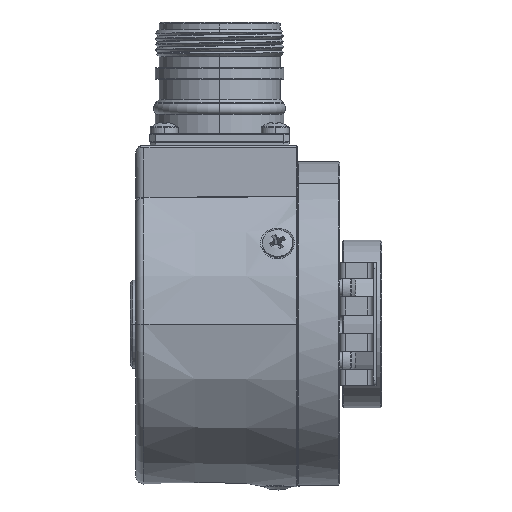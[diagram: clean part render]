
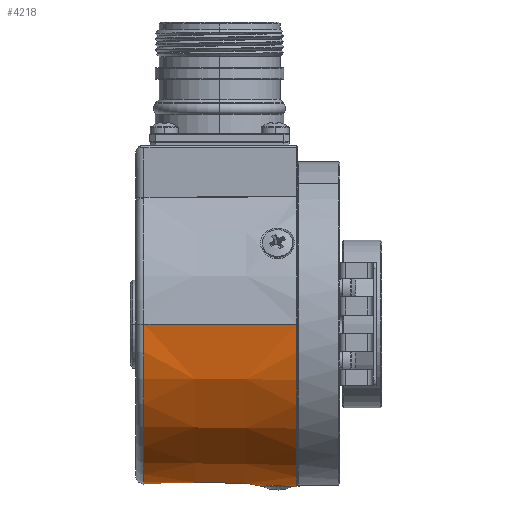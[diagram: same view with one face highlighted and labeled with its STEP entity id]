
A CAD part, left-side view. The second image highlights one B-rep face of the part: STEP entity #4218.
In plain terms, the highlighted conical face has half-angle 1 degrees and reference radius 28.565 mm.
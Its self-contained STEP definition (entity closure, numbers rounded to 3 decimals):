
#1450 = CARTESIAN_POINT ( 'NONE',  ( 1.053, 8.296, -29.041 ) ) ;
#1645 = CARTESIAN_POINT ( 'NONE',  ( -2.536, 12.995, -28.864 ) ) ;
#1795 = CARTESIAN_POINT ( 'NONE',  ( -0.387, 8.168, -29.058 ) ) ;
#2131 = CARTESIAN_POINT ( 'NONE',  ( 2.999, 12.168, -28.834 ) ) ;
#2476 = CARTESIAN_POINT ( 'NONE',  ( 1.913, 13.591, -28.902 ) ) ;
#3854 = B_SPLINE_CURVE_WITH_KNOTS ( 'NONE', 3,
 ( #20827, #36800, #63469, #15991, #37159, #1795, #38811, #7028, #28763, #1450, #55098, #60600, #7695, #22561, #43733, #54442, #33634, #12519, #12874, #49941, #59932, #28108, #2131, #8364, #33958, #54785, #55450, #64823, #2476, #38480 ),
 .UNSPECIFIED., .F., .F.,
 ( 4, 2, 2, 2, 2, 2, 2, 2, 2, 2, 2, 2, 2, 2, 4 ),
 ( 0.998, 1.029, 1.06, 1.092, 1.123, 1.185, 1.217, 1.248, 1.279, 1.31, 1.373, 1.404, 1.435, 1.467, 1.498 ),
 .UNSPECIFIED. ) ;
#4218 = ADVANCED_FACE ( 'NONE', ( #6113, #15771 ), #23409, .T. ) ;
#5006 = CARTESIAN_POINT ( 'NONE',  ( 28.565, 36.5, 0. ) ) ;
#6113 = FACE_BOUND ( 'NONE', #62276, .T. ) ;
#6517 = CARTESIAN_POINT ( 'NONE',  ( -1.613, 13.782, -28.917 ) ) ;
#7028 = CARTESIAN_POINT ( 'NONE',  ( 0.233, 8.153, -29.06 ) ) ;
#7622 = EDGE_CURVE ( 'NONE', #21033, #38652, #33495, .T. ) ;
#7695 = CARTESIAN_POINT ( 'NONE',  ( 2.113, 8.913, -28.97 ) ) ;
#8364 = CARTESIAN_POINT ( 'NONE',  ( 2.837, 12.533, -28.844 ) ) ;
#8549 = CARTESIAN_POINT ( 'NONE',  ( -1.737, 8.646, -28.999 ) ) ;
#9250 = VERTEX_POINT ( 'NONE', #64464 ) ;
#9597 = VECTOR ( 'NONE', #14626, 1000. ) ;
#10675 = CARTESIAN_POINT ( 'NONE',  ( -3.151, 11.541, -28.829 ) ) ;
#10927 = CARTESIAN_POINT ( 'NONE',  ( 0., 36.5, 0. ) ) ;
#11344 = CARTESIAN_POINT ( 'NONE',  ( 0.183, 14.216, -28.956 ) ) ;
#11352 = VERTEX_POINT ( 'NONE', #67555 ) ;
#11678 = CARTESIAN_POINT ( 'NONE',  ( -0.851, 14.091, -28.944 ) ) ;
#12519 = CARTESIAN_POINT ( 'NONE',  ( 3.014, 10.223, -28.867 ) ) ;
#12874 = CARTESIAN_POINT ( 'NONE',  ( 3.073, 10.411, -28.857 ) ) ;
#14010 = CARTESIAN_POINT ( 'NONE',  ( 0., 7.697, 0. ) ) ;
#14626 = DIRECTION ( 'NONE',  ( -0.017, -1., 0. ) ) ;
#15358 = LINE ( 'NONE', #5006, #30199 ) ;
#15771 = FACE_OUTER_BOUND ( 'NONE', #67855, .T. ) ;
#15991 = CARTESIAN_POINT ( 'NONE',  ( -0.997, 8.298, -29.041 ) ) ;
#16105 = AXIS2_PLACEMENT_3D ( 'NONE', #32004, #42777, #58333 ) ;
#20144 = CARTESIAN_POINT ( 'NONE',  ( -29.068, 7.697, 0. ) ) ;
#20827 = CARTESIAN_POINT ( 'NONE',  ( -1.737, 8.646, -28.999 ) ) ;
#21033 = VERTEX_POINT ( 'NONE', #56606 ) ;
#22399 = CARTESIAN_POINT ( 'NONE',  ( 1.389, 13.918, -28.928 ) ) ;
#22561 = CARTESIAN_POINT ( 'NONE',  ( 2.404, 9.196, -28.942 ) ) ;
#22746 = CARTESIAN_POINT ( 'NONE',  ( -2.879, 12.497, -28.842 ) ) ;
#23409 = CONICAL_SURFACE ( 'NONE', #63268, 28.565, 0.017 ) ;
#24280 = ORIENTED_EDGE ( 'NONE', *, *, #62557, .T. ) ;
#24572 = VERTEX_POINT ( 'NONE', #29980 ) ;
#28108 = CARTESIAN_POINT ( 'NONE',  ( 3.06, 11.981, -28.831 ) ) ;
#28618 = CARTESIAN_POINT ( 'NONE',  ( -2.997, 10.173, -28.87 ) ) ;
#28763 = CARTESIAN_POINT ( 'NONE',  ( 0.441, 8.174, -29.057 ) ) ;
#28935 = DIRECTION ( 'NONE',  ( 1., 0., 0. ) ) ;
#28969 = CARTESIAN_POINT ( 'NONE',  ( -2.085, 8.864, -28.975 ) ) ;
#29279 = DIRECTION ( 'NONE',  ( 0., 1., 0. ) ) ;
#29980 = CARTESIAN_POINT ( 'NONE',  ( 29.068, 7.697, 0. ) ) ;
#30199 = VECTOR ( 'NONE', #68058, 1000. ) ;
#31120 = EDGE_CURVE ( 'NONE', #38652, #21033, #3854, .T. ) ;
#31766 = CARTESIAN_POINT ( 'NONE',  ( -3.17, 11.343, -28.83 ) ) ;
#32004 = CARTESIAN_POINT ( 'NONE',  ( 0., 35.026, 0. ) ) ;
#32789 = CARTESIAN_POINT ( 'NONE',  ( -1.048, 14.032, -28.939 ) ) ;
#33495 = B_SPLINE_CURVE_WITH_KNOTS ( 'NONE', 3,
 ( #48087, #22399, #37346, #11344, #38013, #11678, #32789, #53933, #6517, #38342, #48753, #59438, #1645, #22746, #58119, #10675, #31766, #34836, #55651, #59780, #28618, #39684, #65350, #34490, #28969, #8549 ),
 .UNSPECIFIED., .F., .F.,
 ( 4, 2, 2, 2, 2, 2, 2, 2, 2, 2, 2, 2, 4 ),
 ( 0.498, 0.56, 0.623, 0.654, 0.685, 0.717, 0.748, 0.81, 0.842, 0.873, 0.904, 0.935, 0.998 ),
 .UNSPECIFIED. ) ;
#33597 = ORIENTED_EDGE ( 'NONE', *, *, #52830, .F. ) ;
#33634 = CARTESIAN_POINT ( 'NONE',  ( 2.858, 9.855, -28.889 ) ) ;
#33756 = DIRECTION ( 'NONE',  ( 0., -1., 0. ) ) ;
#33958 = CARTESIAN_POINT ( 'NONE',  ( 2.737, 12.708, -28.851 ) ) ;
#34490 = CARTESIAN_POINT ( 'NONE',  ( -2.385, 9.146, -28.945 ) ) ;
#34836 = CARTESIAN_POINT ( 'NONE',  ( -3.166, 10.946, -28.838 ) ) ;
#34947 = AXIS2_PLACEMENT_3D ( 'NONE', #14010, #29279, #28935 ) ;
#36800 = CARTESIAN_POINT ( 'NONE',  ( -1.563, 8.538, -29.012 ) ) ;
#37159 = CARTESIAN_POINT ( 'NONE',  ( -0.796, 8.242, -29.048 ) ) ;
#37346 = CARTESIAN_POINT ( 'NONE',  ( 0.998, 14.069, -28.942 ) ) ;
#38013 = CARTESIAN_POINT ( 'NONE',  ( -0.24, 14.213, -28.956 ) ) ;
#38220 = EDGE_CURVE ( 'NONE', #24572, #56516, #46021, .T. ) ;
#38342 = CARTESIAN_POINT ( 'NONE',  ( -1.957, 13.558, -28.9 ) ) ;
#38480 = CARTESIAN_POINT ( 'NONE',  ( 1.738, 13.7, -28.911 ) ) ;
#38652 = VERTEX_POINT ( 'NONE', #48545 ) ;
#38811 = CARTESIAN_POINT ( 'NONE',  ( -0.181, 8.15, -29.06 ) ) ;
#39684 = CARTESIAN_POINT ( 'NONE',  ( -2.834, 9.808, -28.892 ) ) ;
#40841 = ORIENTED_EDGE ( 'NONE', *, *, #31120, .T. ) ;
#42777 = DIRECTION ( 'NONE',  ( 0., -1., 0. ) ) ;
#43733 = CARTESIAN_POINT ( 'NONE',  ( 2.534, 9.349, -28.928 ) ) ;
#44561 = EDGE_CURVE ( 'NONE', #11352, #24572, #15358, .T. ) ;
#46021 = CIRCLE ( 'NONE', #34947, 29.068 ) ;
#46209 = ORIENTED_EDGE ( 'NONE', *, *, #44561, .T. ) ;
#46896 = CARTESIAN_POINT ( 'NONE',  ( -28.565, 36.5, 0. ) ) ;
#48040 = ORIENTED_EDGE ( 'NONE', *, *, #38220, .T. ) ;
#48087 = CARTESIAN_POINT ( 'NONE',  ( 1.738, 13.7, -28.911 ) ) ;
#48545 = CARTESIAN_POINT ( 'NONE',  ( -1.737, 8.646, -28.999 ) ) ;
#48753 = CARTESIAN_POINT ( 'NONE',  ( -2.115, 13.432, -28.891 ) ) ;
#49941 = CARTESIAN_POINT ( 'NONE',  ( 3.189, 10.994, -28.834 ) ) ;
#52830 = EDGE_CURVE ( 'NONE', #9250, #56516, #62088, .T. ) ;
#53933 = CARTESIAN_POINT ( 'NONE',  ( -1.43, 13.877, -28.925 ) ) ;
#54442 = CARTESIAN_POINT ( 'NONE',  ( 2.761, 9.678, -28.902 ) ) ;
#54785 = CARTESIAN_POINT ( 'NONE',  ( 2.503, 13.037, -28.866 ) ) ;
#54803 = CIRCLE ( 'NONE', #16105, 28.591 ) ;
#55098 = CARTESIAN_POINT ( 'NONE',  ( 1.439, 8.452, -29.021 ) ) ;
#55450 = CARTESIAN_POINT ( 'NONE',  ( 2.371, 13.188, -28.875 ) ) ;
#55651 = CARTESIAN_POINT ( 'NONE',  ( -3.144, 10.75, -28.844 ) ) ;
#56516 = VERTEX_POINT ( 'NONE', #20144 ) ;
#56606 = CARTESIAN_POINT ( 'NONE',  ( 1.738, 13.7, -28.911 ) ) ;
#58119 = CARTESIAN_POINT ( 'NONE',  ( -3.036, 12.125, -28.831 ) ) ;
#58333 = DIRECTION ( 'NONE',  ( 1., 0., 0. ) ) ;
#59438 = CARTESIAN_POINT ( 'NONE',  ( -2.405, 13.15, -28.873 ) ) ;
#59721 = DIRECTION ( 'NONE',  ( -1., 0., 0. ) ) ;
#59780 = CARTESIAN_POINT ( 'NONE',  ( -3.059, 10.363, -28.86 ) ) ;
#59932 = CARTESIAN_POINT ( 'NONE',  ( 3.187, 11.397, -28.828 ) ) ;
#60436 = ORIENTED_EDGE ( 'NONE', *, *, #7622, .T. ) ;
#60600 = CARTESIAN_POINT ( 'NONE',  ( 1.953, 8.786, -28.984 ) ) ;
#62088 = LINE ( 'NONE', #46896, #9597 ) ;
#62276 = EDGE_LOOP ( 'NONE', ( #40841, #60436 ) ) ;
#62557 = EDGE_CURVE ( 'NONE', #9250, #11352, #54803, .T. ) ;
#63268 = AXIS2_PLACEMENT_3D ( 'NONE', #10927, #33756, #59721 ) ;
#63469 = CARTESIAN_POINT ( 'NONE',  ( -1.381, 8.446, -29.022 ) ) ;
#64464 = CARTESIAN_POINT ( 'NONE',  ( -28.591, 35.026, 0. ) ) ;
#64823 = CARTESIAN_POINT ( 'NONE',  ( 2.076, 13.465, -28.893 ) ) ;
#65350 = CARTESIAN_POINT ( 'NONE',  ( -2.735, 9.636, -28.905 ) ) ;
#67555 = CARTESIAN_POINT ( 'NONE',  ( 28.591, 35.026, 0. ) ) ;
#67855 = EDGE_LOOP ( 'NONE', ( #24280, #46209, #48040, #33597 ) ) ;
#68058 = DIRECTION ( 'NONE',  ( 0.017, -1., 0. ) ) ;
